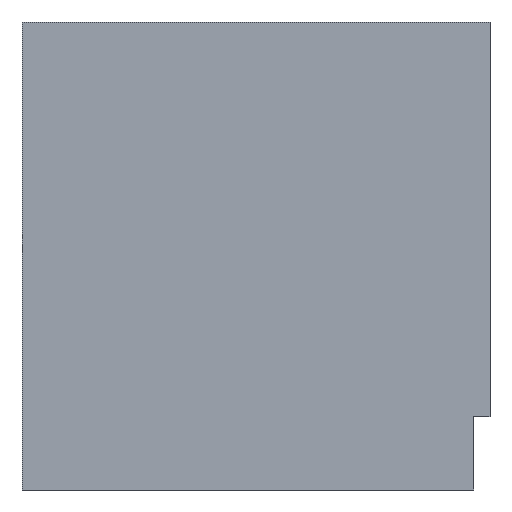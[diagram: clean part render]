
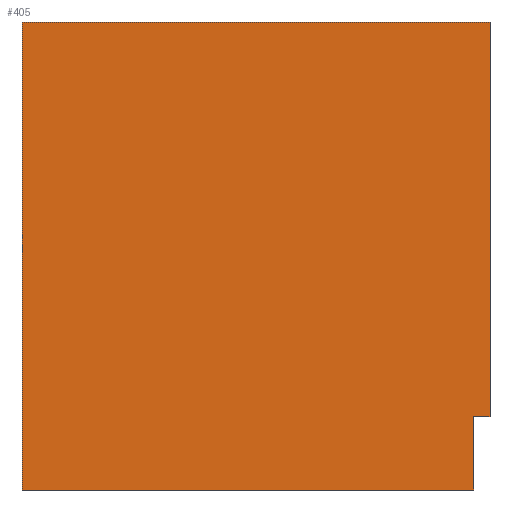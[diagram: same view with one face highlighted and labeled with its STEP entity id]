
A CAD part, left-side view. The second image highlights one B-rep face of the part: STEP entity #405.
In plain terms, the highlighted planar face has unit normal (-1, 0, 0).
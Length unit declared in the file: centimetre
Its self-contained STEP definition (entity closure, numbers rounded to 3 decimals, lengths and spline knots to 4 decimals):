
#9 = ORIENTED_EDGE ( 'NONE', *, *, #466, .T. ) ;
#10 = VECTOR ( 'NONE', #491, 100. ) ;
#13 = DIRECTION ( 'NONE',  ( 1., 0., 0. ) ) ;
#15 = VERTEX_POINT ( 'NONE', #278 ) ;
#34 = CARTESIAN_POINT ( 'NONE',  ( 0., 0., 1000. ) ) ;
#38 = DIRECTION ( 'NONE',  ( 0., 0., -1. ) ) ;
#43 = CARTESIAN_POINT ( 'NONE',  ( 0., 34.8734, 0. ) ) ;
#49 = EDGE_CURVE ( 'NONE', #272, #152, #164, .T. ) ;
#69 = LINE ( 'NONE', #378, #10 ) ;
#79 = ORIENTED_EDGE ( 'NONE', *, *, #419, .F. ) ;
#82 = DIRECTION ( 'NONE',  ( 0., 0., -1. ) ) ;
#103 = VECTOR ( 'NONE', #409, 100. ) ;
#112 = VECTOR ( 'NONE', #207, 100. ) ;
#120 = EDGE_CURVE ( 'NONE', #173, #15, #69, .T. ) ;
#127 = CARTESIAN_POINT ( 'NONE',  ( 0., 1000., 1000. ) ) ;
#129 = EDGE_CURVE ( 'NONE', #15, #272, #237, .T. ) ;
#142 = ORIENTED_EDGE ( 'NONE', *, *, #129, .F. ) ;
#152 = VERTEX_POINT ( 'NONE', #416 ) ;
#164 = LINE ( 'NONE', #540, #112 ) ;
#166 = ORIENTED_EDGE ( 'NONE', *, *, #364, .T. ) ;
#169 = PLANE ( 'NONE',  #250 ) ;
#173 = VERTEX_POINT ( 'NONE', #200 ) ;
#200 = CARTESIAN_POINT ( 'NONE',  ( 0., 1000., 1000. ) ) ;
#207 = DIRECTION ( 'NONE',  ( 0., 1., 0. ) ) ;
#213 = DIRECTION ( 'NONE',  ( 0., 0., -1. ) ) ;
#214 = CARTESIAN_POINT ( 'NONE',  ( 0., 34.8734, 0. ) ) ;
#237 = LINE ( 'NONE', #34, #103 ) ;
#250 = AXIS2_PLACEMENT_3D ( 'NONE', #127, #13, #82 ) ;
#259 = EDGE_LOOP ( 'NONE', ( #9, #79, #438, #142, #467, #166 ) ) ;
#261 = CARTESIAN_POINT ( 'NONE',  ( 0., 1000., 0. ) ) ;
#272 = VERTEX_POINT ( 'NONE', #452 ) ;
#278 = CARTESIAN_POINT ( 'NONE',  ( 0., 0., 1000. ) ) ;
#308 = LINE ( 'NONE', #433, #533 ) ;
#328 = VERTEX_POINT ( 'NONE', #43 ) ;
#339 = VERTEX_POINT ( 'NONE', #261 ) ;
#359 = DIRECTION ( 'NONE',  ( 0., -1., 0. ) ) ;
#364 = EDGE_CURVE ( 'NONE', #173, #339, #308, .T. ) ;
#378 = CARTESIAN_POINT ( 'NONE',  ( 0., 1000., 1000. ) ) ;
#405 = ADVANCED_FACE ( 'NONE', ( #462 ), #169, .F. ) ;
#409 = DIRECTION ( 'NONE',  ( 0., 0., -1. ) ) ;
#416 = CARTESIAN_POINT ( 'NONE',  ( 0., 34.8734, 156.0728 ) ) ;
#419 = EDGE_CURVE ( 'NONE', #152, #328, #426, .T. ) ;
#426 = LINE ( 'NONE', #214, #523 ) ;
#433 = CARTESIAN_POINT ( 'NONE',  ( 0., 1000., 1000. ) ) ;
#438 = ORIENTED_EDGE ( 'NONE', *, *, #49, .F. ) ;
#452 = CARTESIAN_POINT ( 'NONE',  ( 0., 0., 156.0728 ) ) ;
#462 = FACE_OUTER_BOUND ( 'NONE', #259, .T. ) ;
#466 = EDGE_CURVE ( 'NONE', #339, #328, #520, .T. ) ;
#467 = ORIENTED_EDGE ( 'NONE', *, *, #120, .F. ) ;
#478 = CARTESIAN_POINT ( 'NONE',  ( 0., 1000., 0. ) ) ;
#491 = DIRECTION ( 'NONE',  ( 0., -1., 0. ) ) ;
#520 = LINE ( 'NONE', #478, #543 ) ;
#523 = VECTOR ( 'NONE', #213, 100. ) ;
#533 = VECTOR ( 'NONE', #38, 100. ) ;
#540 = CARTESIAN_POINT ( 'NONE',  ( 0., 0., 156.0728 ) ) ;
#543 = VECTOR ( 'NONE', #359, 100. ) ;
